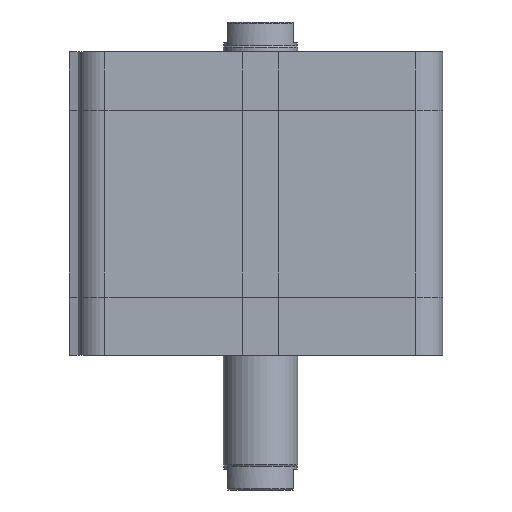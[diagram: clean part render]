
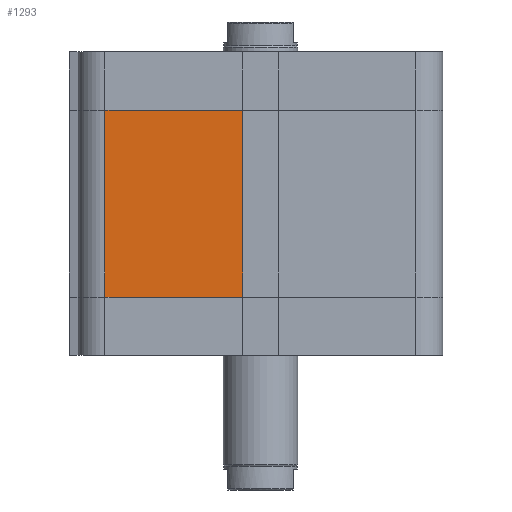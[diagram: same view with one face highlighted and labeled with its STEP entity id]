
A CAD part, left-side view. The second image highlights one B-rep face of the part: STEP entity #1293.
In plain terms, the highlighted planar face has unit normal (-1, 0, 0).
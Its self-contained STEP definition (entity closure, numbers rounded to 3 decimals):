
#1204=CARTESIAN_POINT('',(-61.0,52.,19.5));
#1205=VERTEX_POINT('',#1204);
#1213=CARTESIAN_POINT('',(-61.0,52.,82.0));
#1214=VERTEX_POINT('',#1213);
#1215=CARTESIAN_POINT('',(-61.0,52.,19.5));
#1216=DIRECTION('',(0.0,0.0,1.0));
#1217=VECTOR('',#1216,62.5);
#1218=LINE('',#1215,#1217);
#1219=EDGE_CURVE('',#1205,#1214,#1218,.T.);
#1263=CARTESIAN_POINT('',(-61.,6.,0.0));
#1264=DIRECTION('',(-1.0,0.0,0.0));
#1265=DIRECTION('',(0.0,0.0,1.0));
#1266=AXIS2_PLACEMENT_3D('',#1263,#1264,#1265);
#1267=PLANE('',#1266);
#1268=CARTESIAN_POINT('',(-61.,6.,19.5));
#1269=VERTEX_POINT('',#1268);
#1270=CARTESIAN_POINT('',(-61.0,52.,19.5));
#1271=DIRECTION('',(0.0,-1.0,0.0));
#1272=VECTOR('',#1271,46.);
#1273=LINE('',#1270,#1272);
#1274=EDGE_CURVE('',#1205,#1269,#1273,.T.);
#1275=ORIENTED_EDGE('',*,*,#1274,.T.);
#1276=CARTESIAN_POINT('',(-61.,6.,82.0));
#1277=VERTEX_POINT('',#1276);
#1278=CARTESIAN_POINT('',(-61.,6.,19.5));
#1279=DIRECTION('',(0.0,0.0,1.0));
#1280=VECTOR('',#1279,62.5);
#1281=LINE('',#1278,#1280);
#1282=EDGE_CURVE('',#1269,#1277,#1281,.T.);
#1283=ORIENTED_EDGE('',*,*,#1282,.T.);
#1284=CARTESIAN_POINT('',(-61.0,52.,82.0));
#1285=DIRECTION('',(0.0,-1.0,0.0));
#1286=VECTOR('',#1285,46.);
#1287=LINE('',#1284,#1286);
#1288=EDGE_CURVE('',#1214,#1277,#1287,.T.);
#1289=ORIENTED_EDGE('',*,*,#1288,.F.);
#1290=ORIENTED_EDGE('',*,*,#1219,.F.);
#1291=EDGE_LOOP('',(#1275,#1283,#1289,#1290));
#1292=FACE_OUTER_BOUND('',#1291,.T.);
#1293=ADVANCED_FACE('',(#1292),#1267,.T.);
